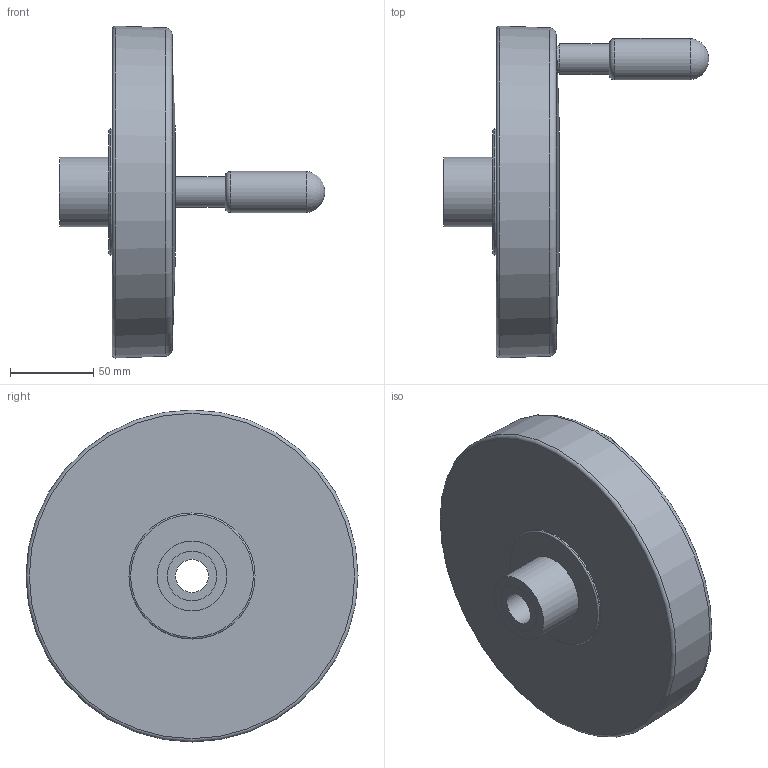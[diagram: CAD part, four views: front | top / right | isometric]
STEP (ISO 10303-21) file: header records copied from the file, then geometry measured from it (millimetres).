
FILE_DESCRIPTION( ( 'STEP AP203' ), '1' );
FILE_NAME( 'C:/Temp/Ganter_Step_05_03_2020/data/1_4/gn521_8/gn521_8_b_d/Disc handwheel GN 521.8-200-B20-D.stp', '2020-03-05T10:53:26', ( 'License CC BY-ND 4.0' ), ( 'CADENAS' ), ' ', 'PARTsolutions', ' ' );
FILE_SCHEMA( ( 'CONFIG_CONTROL_DESIGN' ) );
Length unit declared in the file: millimetre
Products named in the file (1): _Disc handwheel GN 521.8-200-B20-D
Bounding box: 160.1 x 200 x 200 mm (x, y, z)
Volume: 1098112.1 mm3; surface area: 102760.8 mm2
Topology: 1 solids, 1 shells, 25 faces, 45 edges, 28 vertices
Faces by surface type: cylinder 9, plane 8, torus 5, cone 2, sphere 1
Full cylindrical faces by diameter (mm): 16 x1, 18.5 x1, 20 x1, 25 x1, 30 x2, 42 x1, 68.5 x1, 76 x1
Entity records: 642 total; most frequent: CARTESIAN_POINT 163, DIRECTION 100, AXIS2_PLACEMENT_3D 50, EDGE_LOOP 50, ORIENTED_EDGE 50, FACE_OUTER_BOUND 39, VERTEX_POINT 27, ADVANCED_FACE 25
